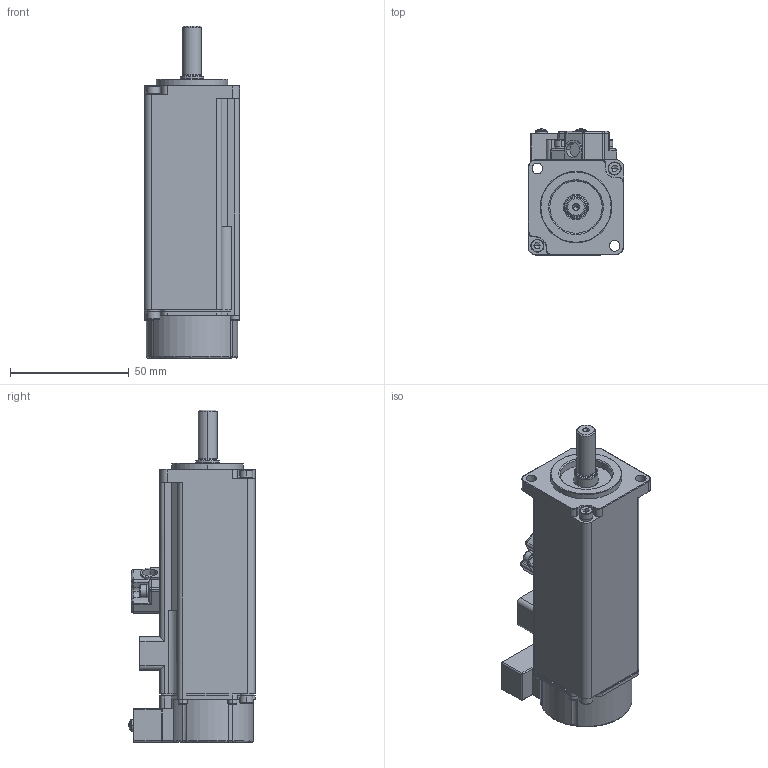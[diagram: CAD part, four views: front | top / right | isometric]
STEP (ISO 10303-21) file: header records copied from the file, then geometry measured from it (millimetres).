
FILE_DESCRIPTION (( 'STEP AP214' ), '1' );
FILE_NAME ('SME-L010B.STEP', '2020-05-18T08:19:56', ( '' ), ( '' ), 'SwSTEP 2.0', 'SolidWorks 2016', '' );
FILE_SCHEMA (( 'AUTOMOTIVE_DESIGN' ));
Length unit declared in the file: millimetre
Products named in the file (1): SME-L010B
Bounding box: 40 x 53.07 x 139.7 mm (x, y, z)
Volume: 67628.3 mm3; surface area: 44233.7 mm2
Topology: 40 solids, 40 shells, 936 faces, 2321 edges, 1443 vertices
Faces by surface type: plane 357, cylinder 329, cone 160, bspline 90
Entity records: 37019 total; most frequent: CARTESIAN_POINT 8069, DIRECTION 4537, ORIENTED_EDGE 4486, EDGE_CURVE 2243, AXIS2_PLACEMENT_3D 1751, VERTEX_POINT 1443, VECTOR 1035, LINE 1035
